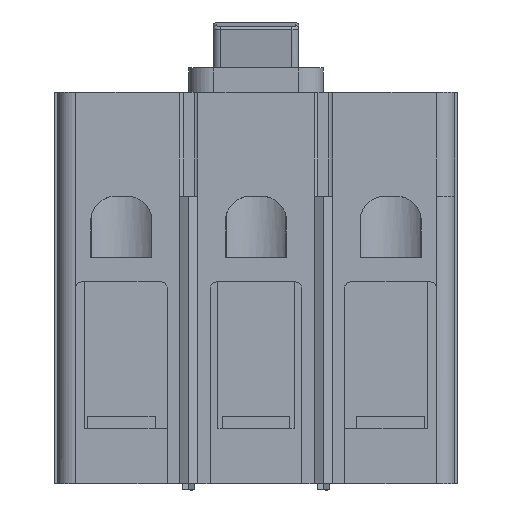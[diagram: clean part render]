
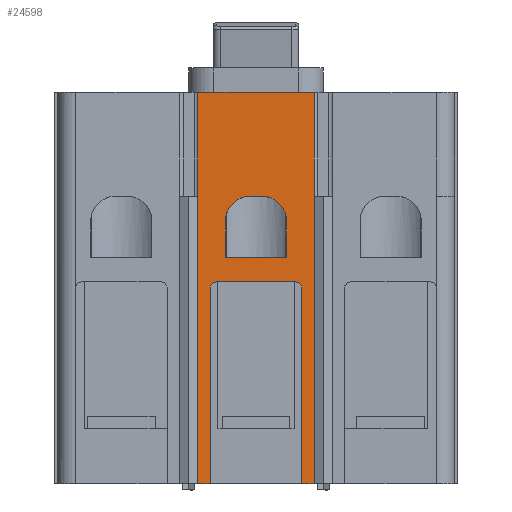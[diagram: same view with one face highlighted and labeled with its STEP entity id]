
A CAD part, front view. The second image highlights one B-rep face of the part: STEP entity #24598.
In plain terms, the highlighted planar face has unit normal (0, -1, 0).
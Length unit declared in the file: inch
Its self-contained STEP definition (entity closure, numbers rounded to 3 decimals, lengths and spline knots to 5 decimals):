
#1752=CARTESIAN_POINT('',(-1.0124,-4.48419,-0.62653));
#1753=VERTEX_POINT('',#1752);
#1760=CARTESIAN_POINT('',(-0.3874,-4.48419,-0.62653));
#1761=VERTEX_POINT('',#1760);
#1762=CARTESIAN_POINT('',(-0.3874,-4.48419,-0.62653));
#1763=DIRECTION('',(-1.0,0.0,0.0));
#1764=VECTOR('',#1763,0.625);
#1765=LINE('',#1762,#1764);
#1766=EDGE_CURVE('',#1761,#1753,#1765,.T.);
#1938=CARTESIAN_POINT('',(-0.3874,-4.48419,-0.25153));
#1939=VERTEX_POINT('',#1938);
#1946=CARTESIAN_POINT('',(-0.6374,-4.48419,-0.00153));
#1947=VERTEX_POINT('',#1946);
#1948=CARTESIAN_POINT('',(-0.6374,-4.48419,-0.25153));
#1949=DIRECTION('',(0.0,1.0,0.0));
#1950=DIRECTION('',(-1.0,0.0,0.0));
#1951=AXIS2_PLACEMENT_3D('',#1948,#1949,#1950);
#1952=CIRCLE('',#1951,0.25);
#1953=EDGE_CURVE('',#1947,#1939,#1952,.T.);
#2082=CARTESIAN_POINT('',(-0.3874,-4.48419,-0.25153));
#2083=DIRECTION('',(0.0,0.0,-1.0));
#2084=VECTOR('',#2083,0.375);
#2085=LINE('',#2082,#2084);
#2086=EDGE_CURVE('',#1939,#1761,#2085,.T.);
#2099=CARTESIAN_POINT('',(-0.7624,-4.48419,-0.00153));
#2100=VERTEX_POINT('',#2099);
#2107=CARTESIAN_POINT('',(-1.0124,-4.48419,-0.25153));
#2108=VERTEX_POINT('',#2107);
#2109=CARTESIAN_POINT('',(-0.7624,-4.48419,-0.25153));
#2110=DIRECTION('',(0.0,1.0,0.0));
#2111=DIRECTION('',(0.0,0.0,-1.0));
#2112=AXIS2_PLACEMENT_3D('',#2109,#2110,#2111);
#2113=CIRCLE('',#2112,0.25);
#2114=EDGE_CURVE('',#2108,#2100,#2113,.T.);
#2133=CARTESIAN_POINT('',(-1.0124,-4.48419,-0.62653));
#2134=DIRECTION('',(0.0,0.0,1.0));
#2135=VECTOR('',#2134,0.375);
#2136=LINE('',#2133,#2135);
#2137=EDGE_CURVE('',#1753,#2108,#2136,.T.);
#10532=CARTESIAN_POINT('',(-0.1069,-4.48419,-0.00153));
#10533=VERTEX_POINT('',#10532);
#10542=CARTESIAN_POINT('',(-0.1064,-4.48419,-0.00153));
#10543=VERTEX_POINT('',#10542);
#10550=CARTESIAN_POINT('',(-0.1064,-4.48419,-0.00153));
#10551=DIRECTION('',(-1.0,0.0,0.0));
#10552=VECTOR('',#10551,0.0005);
#10553=LINE('',#10550,#10552);
#10554=EDGE_CURVE('',#10543,#10533,#10553,.T.);
#10593=CARTESIAN_POINT('',(-0.7624,-4.48419,-0.00153));
#10594=DIRECTION('',(1.0,0.0,0.0));
#10595=VECTOR('',#10594,0.125);
#10596=LINE('',#10593,#10595);
#10597=EDGE_CURVE('',#2100,#1947,#10596,.T.);
#10756=CARTESIAN_POINT('',(-1.2934,-4.48419,-0.00153));
#10757=VERTEX_POINT('',#10756);
#10766=CARTESIAN_POINT('',(-1.2934,-4.48419,1.06047));
#10767=VERTEX_POINT('',#10766);
#10768=CARTESIAN_POINT('',(-1.2934,-4.48419,-0.00153));
#10769=DIRECTION('',(0.0,0.0,1.0));
#10770=VECTOR('',#10769,1.062);
#10771=LINE('',#10768,#10770);
#10772=EDGE_CURVE('',#10757,#10767,#10771,.T.);
#11266=CARTESIAN_POINT('',(-0.1064,-4.48419,1.06047));
#11267=VERTEX_POINT('',#11266);
#11268=CARTESIAN_POINT('',(-0.1064,-4.48419,1.06047));
#11269=DIRECTION('',(-1.0,0.0,0.0));
#11270=VECTOR('',#11269,1.187);
#11271=LINE('',#11268,#11270);
#11272=EDGE_CURVE('',#11267,#10767,#11271,.T.);
#16683=CARTESIAN_POINT('',(-0.1064,-4.48419,-0.00153));
#16684=DIRECTION('',(0.0,0.0,1.0));
#16685=VECTOR('',#16684,1.062);
#16686=LINE('',#16683,#16685);
#16687=EDGE_CURVE('',#10543,#11267,#16686,.T.);
#18589=CARTESIAN_POINT('',(-1.2939,-4.48419,-0.00153));
#18590=VERTEX_POINT('',#18589);
#18597=CARTESIAN_POINT('',(-1.2934,-4.48419,-0.00153));
#18598=DIRECTION('',(-1.0,0.0,0.0));
#18599=VECTOR('',#18598,0.0005);
#18600=LINE('',#18597,#18599);
#18601=EDGE_CURVE('',#10757,#18590,#18600,.T.);
#19572=CARTESIAN_POINT('',(-0.1069,-4.48419,-2.93953));
#19573=VERTEX_POINT('',#19572);
#19580=CARTESIAN_POINT('',(-0.2319,-4.48419,-2.93953));
#19581=VERTEX_POINT('',#19580);
#19582=CARTESIAN_POINT('',(-0.1069,-4.48419,-2.93953));
#19583=DIRECTION('',(-1.0,0.0,0.0));
#19584=VECTOR('',#19583,0.125);
#19585=LINE('',#19582,#19584);
#19586=EDGE_CURVE('',#19573,#19581,#19585,.T.);
#19604=CARTESIAN_POINT('',(-1.1699,-4.48419,-2.93953));
#19605=VERTEX_POINT('',#19604);
#19612=CARTESIAN_POINT('',(-1.2939,-4.48419,-2.93953));
#19613=VERTEX_POINT('',#19612);
#19614=CARTESIAN_POINT('',(-1.1699,-4.48419,-2.93953));
#19615=DIRECTION('',(-1.0,0.0,0.0));
#19616=VECTOR('',#19615,0.124);
#19617=LINE('',#19614,#19616);
#19618=EDGE_CURVE('',#19605,#19613,#19617,.T.);
#24437=CARTESIAN_POINT('',(-0.2939,-4.48419,-0.87653));
#24438=VERTEX_POINT('',#24437);
#24445=CARTESIAN_POINT('',(-1.1079,-4.48419,-0.87653));
#24446=VERTEX_POINT('',#24445);
#24447=CARTESIAN_POINT('',(-0.2939,-4.48419,-0.87653));
#24448=DIRECTION('',(-1.0,0.0,0.0));
#24449=VECTOR('',#24448,0.814);
#24450=LINE('',#24447,#24449);
#24451=EDGE_CURVE('',#24438,#24446,#24450,.T.);
#24470=CARTESIAN_POINT('',(-1.1699,-4.48419,-0.93853));
#24471=VERTEX_POINT('',#24470);
#24472=CARTESIAN_POINT('',(-1.1079,-4.48419,-0.93853));
#24473=DIRECTION('',(0.0,-1.0,0.0));
#24474=DIRECTION('',(0.0,0.0,1.0));
#24475=AXIS2_PLACEMENT_3D('',#24472,#24473,#24474);
#24476=CIRCLE('',#24475,0.062);
#24477=EDGE_CURVE('',#24446,#24471,#24476,.T.);
#24541=CARTESIAN_POINT('',(1.3621,-4.48419,-0.00153));
#24542=DIRECTION('',(0.0,-1.0,0.0));
#24543=DIRECTION('',(0.0,0.0,-1.0));
#24544=AXIS2_PLACEMENT_3D('',#24541,#24542,#24543);
#24545=PLANE('',#24544);
#24546=CARTESIAN_POINT('',(-0.2319,-4.48419,-0.93853));
#24547=VERTEX_POINT('',#24546);
#24548=CARTESIAN_POINT('',(-0.2319,-4.48419,-2.93953));
#24549=DIRECTION('',(0.0,0.0,1.0));
#24550=VECTOR('',#24549,2.001);
#24551=LINE('',#24548,#24550);
#24552=EDGE_CURVE('',#19581,#24547,#24551,.T.);
#24553=ORIENTED_EDGE('',*,*,#24552,.F.);
#24554=ORIENTED_EDGE('',*,*,#19586,.F.);
#24555=CARTESIAN_POINT('',(-0.1069,-4.48419,-0.00153));
#24556=DIRECTION('',(0.0,0.0,-1.0));
#24557=VECTOR('',#24556,2.938);
#24558=LINE('',#24555,#24557);
#24559=EDGE_CURVE('',#10533,#19573,#24558,.T.);
#24560=ORIENTED_EDGE('',*,*,#24559,.F.);
#24561=ORIENTED_EDGE('',*,*,#10554,.F.);
#24562=ORIENTED_EDGE('',*,*,#16687,.T.);
#24563=ORIENTED_EDGE('',*,*,#11272,.T.);
#24564=ORIENTED_EDGE('',*,*,#10772,.F.);
#24565=ORIENTED_EDGE('',*,*,#18601,.T.);
#24566=CARTESIAN_POINT('',(-1.2939,-4.48419,-0.00153));
#24567=DIRECTION('',(0.0,0.0,-1.0));
#24568=VECTOR('',#24567,2.938);
#24569=LINE('',#24566,#24568);
#24570=EDGE_CURVE('',#18590,#19613,#24569,.T.);
#24571=ORIENTED_EDGE('',*,*,#24570,.T.);
#24572=ORIENTED_EDGE('',*,*,#19618,.F.);
#24573=CARTESIAN_POINT('',(-1.1699,-4.48419,-2.93953));
#24574=DIRECTION('',(0.0,0.0,1.0));
#24575=VECTOR('',#24574,2.001);
#24576=LINE('',#24573,#24575);
#24577=EDGE_CURVE('',#19605,#24471,#24576,.T.);
#24578=ORIENTED_EDGE('',*,*,#24577,.T.);
#24579=ORIENTED_EDGE('',*,*,#24477,.F.);
#24580=ORIENTED_EDGE('',*,*,#24451,.F.);
#24581=CARTESIAN_POINT('',(-0.2939,-4.48419,-0.93853));
#24582=DIRECTION('',(0.0,-1.0,0.0));
#24583=DIRECTION('',(1.0,0.0,0.0));
#24584=AXIS2_PLACEMENT_3D('',#24581,#24582,#24583);
#24585=CIRCLE('',#24584,0.062);
#24586=EDGE_CURVE('',#24547,#24438,#24585,.T.);
#24587=ORIENTED_EDGE('',*,*,#24586,.F.);
#24588=EDGE_LOOP('',(#24553,#24554,#24560,#24561,#24562,#24563,#24564,#24565,#24571,#24572,#24578,#24579,#24580,#24587));
#24589=FACE_OUTER_BOUND('',#24588,.T.);
#24590=ORIENTED_EDGE('',*,*,#1766,.T.);
#24591=ORIENTED_EDGE('',*,*,#2137,.T.);
#24592=ORIENTED_EDGE('',*,*,#2114,.T.);
#24593=ORIENTED_EDGE('',*,*,#10597,.T.);
#24594=ORIENTED_EDGE('',*,*,#1953,.T.);
#24595=ORIENTED_EDGE('',*,*,#2086,.T.);
#24596=EDGE_LOOP('',(#24590,#24591,#24592,#24593,#24594,#24595));
#24597=FACE_BOUND('',#24596,.T.);
#24598=ADVANCED_FACE('',(#24589,#24597),#24545,.T.);
